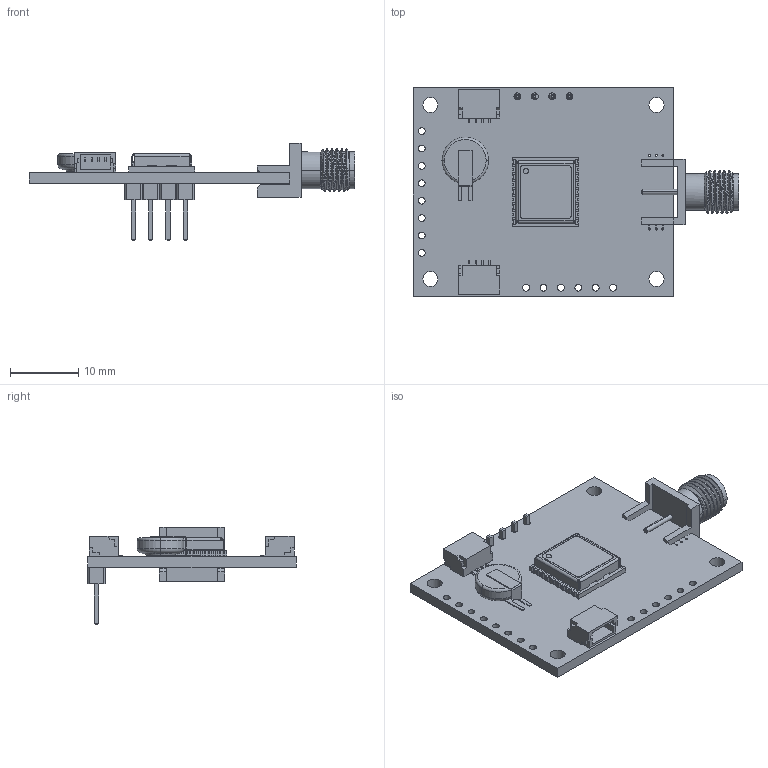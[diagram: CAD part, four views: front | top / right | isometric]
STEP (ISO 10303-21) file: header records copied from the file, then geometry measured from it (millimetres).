
FILE_DESCRIPTION(('FreeCAD Model'),'2;1');
FILE_NAME('Open CASCADE Shape Model','2023-04-01T20:47:27',( 'kicad StepUp'),('ksu MCAD'),'Open CASCADE STEP processor 7.5', 'FreeCAD','Unknown');
FILE_SCHEMA(('AUTOMOTIVE_DESIGN { 1 0 10303 214 1 1 1 1 }'));
Length unit declared in the file: millimetre
Products named in the file (12): Breakout_MAX_M10S_SparkFun 1; SMA_Edge_Femelle_filete; SOLID001; PinHeader_1x04_P2.54mm_Vertical; SOLID002; SPARKFUN_QWIIC_RIGHT_ANGLE; SOLID003; MAX-M8C-0-10; COMPOUND; Coin_Cell_6-8mm_MS621FE-FL11; COMPOUND001; Breakout_MAX_M10S_SparkFun PCB
Assembly tree (12 placements, depth 3):
  Breakout_MAX_M10S_SparkFun 1
    SMA_Edge_Femelle_filete
      SOLID001
    PinHeader_1x04_P2.54mm_Vertical
      SOLID002
    SPARKFUN_QWIIC_RIGHT_ANGLE  x2
      SOLID003
    MAX-M8C-0-10
      COMPOUND
    Coin_Cell_6-8mm_MS621FE-FL11
      COMPOUND001
    Breakout_MAX_M10S_SparkFun PCB
Bounding box: 47.6 x 30.48 x 14.25 mm (x, y, z)
Volume: 2441.1 mm3; surface area: 4485.8 mm2
Topology: 29 solids, 33 shells, 856 faces, 2200 edges, 1437 vertices
Faces by surface type: plane 700, cylinder 130, cone 13, torus 11, bspline 2
Full cylindrical faces by diameter (mm): 0.305 x12, 1 x18, 2.2 x4
Entity records: 27716 total; most frequent: CARTESIAN_POINT 7613, ORIENTED_EDGE 3912, DIRECTION 3663, EDGE_CURVE 1956, LINE 1613, VECTOR 1613, VERTEX_POINT 1275, AXIS2_PLACEMENT_3D 1025
